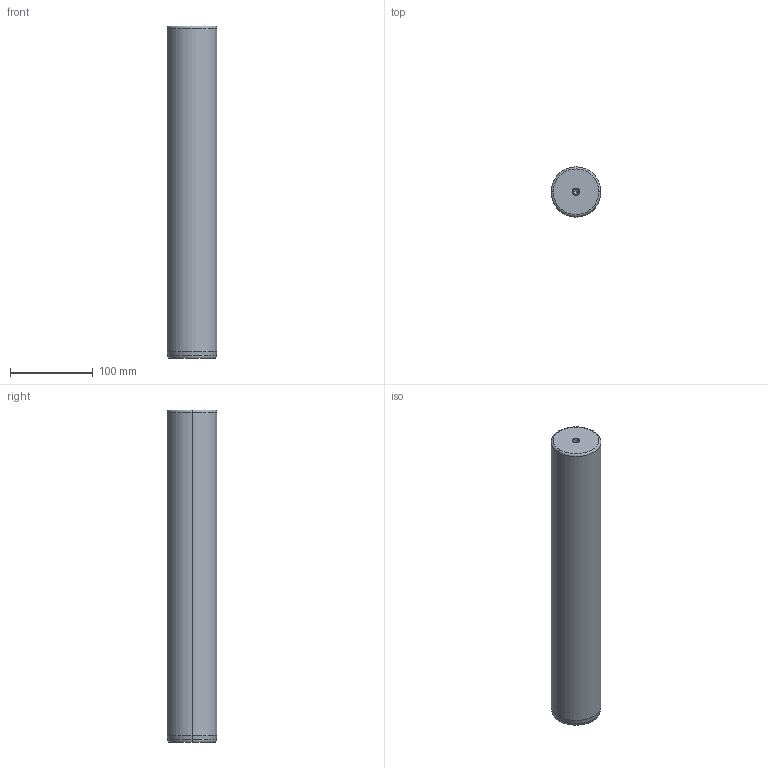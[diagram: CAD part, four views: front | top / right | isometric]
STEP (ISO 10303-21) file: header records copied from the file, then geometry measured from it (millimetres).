
FILE_DESCRIPTION (( 'STEP AP214' ), '1' );
FILE_NAME ('Columna guía lisa de SP203-60-400.STEP', '2018-12-12T13:36:08', ( '' ), ( '' ), 'SwSTEP 2.0', 'SolidWorks 2018', '' );
FILE_SCHEMA (( 'AUTOMOTIVE_DESIGN' ));
Length unit declared in the file: millimetre
Products named in the file (1): Columna gu燰 lisa de SP203-60-400
Bounding box: 60 x 60 x 400 mm (x, y, z)
Volume: 1128305.8 mm3; surface area: 81307.7 mm2
Topology: 1 solids, 1 shells, 28 faces, 58 edges, 32 vertices
Faces by surface type: cone 10, cylinder 10, torus 4, plane 4
Entity records: 750 total; most frequent: DIRECTION 146, CARTESIAN_POINT 115, ORIENTED_EDGE 108, AXIS2_PLACEMENT_3D 63, EDGE_CURVE 54, CIRCLE 34, EDGE_LOOP 32, VERTEX_POINT 32
